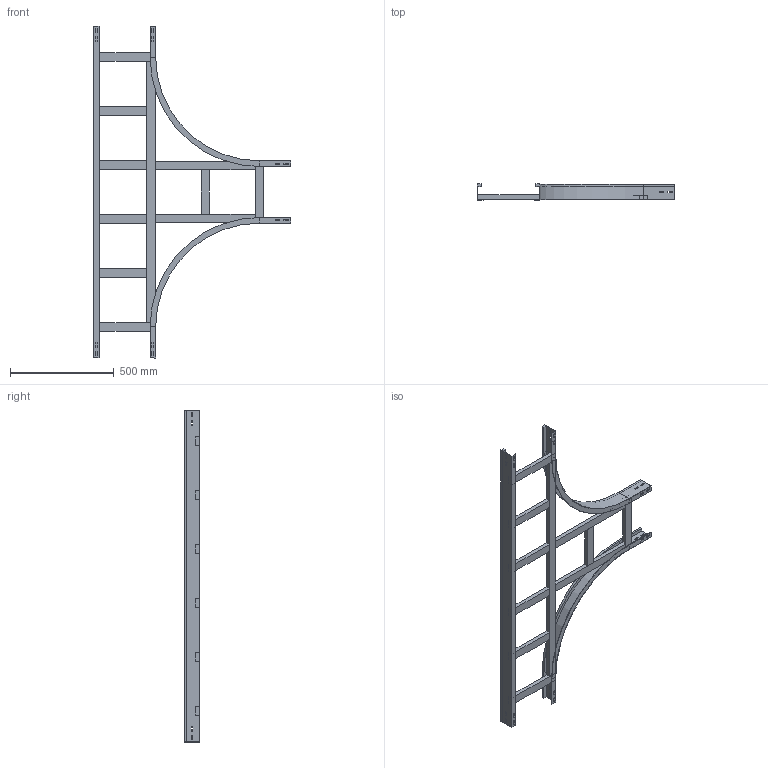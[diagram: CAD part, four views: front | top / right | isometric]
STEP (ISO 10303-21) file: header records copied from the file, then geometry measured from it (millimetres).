
FILE_DESCRIPTION (( 'STEP AP214' ), '1' );
FILE_NAME ('15B5C300.step', '2025-02-21T15:52:31', ( '' ), ( '' ), 'SwSTEP 2.0', 'SolidWorks 2023', '' );
FILE_SCHEMA (( 'AUTOMOTIVE_DESIGN' ));
Length unit declared in the file: millimetre
Products named in the file (8): LONGH.INTERNO 90°_H75_R500; TRAVERSINO_COPPIA_300; 15B5C300; TRAVERSINO_VERT_R500; LONGH.RETT_H75_R500+300; TRAVERSINO_LONG._R500+300; TRAVERSINO_INTERMEDIO_R500+300; TRAVERSINO_300
Assembly tree (14 placements, depth 2):
  15B5C300
    LONGH.INTERNO 90°_H75_R500  x2
    LONGH.RETT_H75_R500+300
    TRAVERSINO_300  x3
    TRAVERSINO_LONG._R500+300
    TRAVERSINO_INTERMEDIO_R500+300  x4
    TRAVERSINO_VERT_R500  x2
    TRAVERSINO_COPPIA_300
Bounding box: 950 x 75 x 1600 mm (x, y, z)
Volume: 5001420.9 mm3; surface area: 1436107 mm2
Topology: 14 solids, 14 shells, 224 faces, 556 edges, 360 vertices
Faces by surface type: plane 216, cylinder 8
Entity records: 4209 total; most frequent: CARTESIAN_POINT 695, ORIENTED_EDGE 664, DIRECTION 634, EDGE_CURVE 332, VECTOR 324, LINE 324, VERTEX_POINT 216, EDGE_LOOP 162
